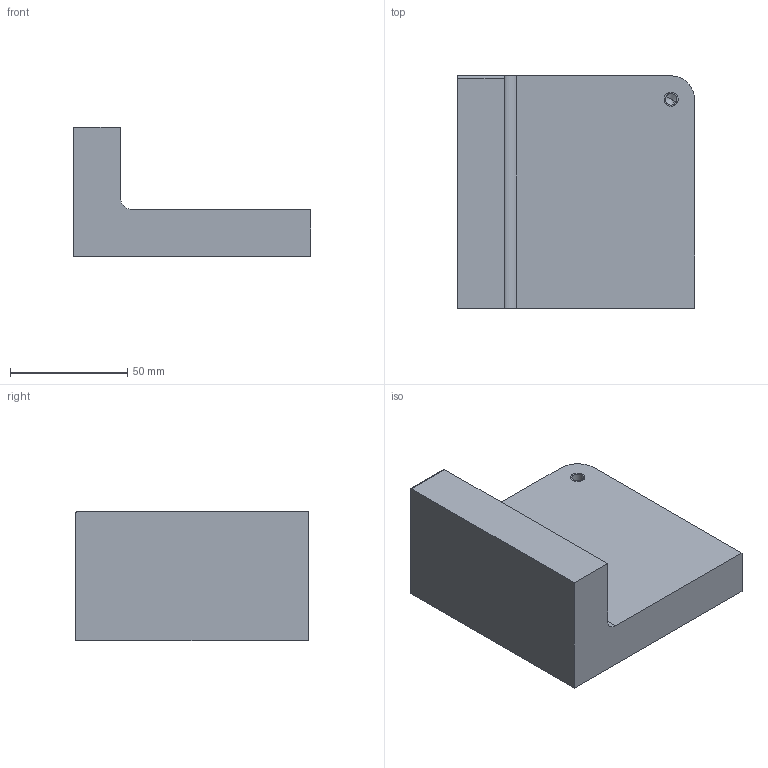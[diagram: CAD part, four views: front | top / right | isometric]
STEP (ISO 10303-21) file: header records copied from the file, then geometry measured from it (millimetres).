
FILE_DESCRIPTION(('CATIA V5 STEP Exchange'),'2;1');
FILE_NAME('C:\_Andres\UNIVERSIDAD\IQS\ASIGNATURAS\DAO\EXF\EXF-16172c\2inicio\Altirriba_Cusco_Ej01_v1.stp','2017-03-05T15:11:03+00:00',('none'),('none'),'CATIA Version 5-6 Release 2014 SP1 HF18','CATIA V5 STEP AP203','none');
FILE_SCHEMA(('CONFIG_CONTROL_DESIGN'));
Length unit declared in the file: millimetre
Products named in the file (1): Altirriba_Cusco_Ej01_v1
Bounding box: 101 x 99 x 55 mm (x, y, z)
Volume: 269064.8 mm3; surface area: 36464.8 mm2
Topology: 1 solids, 2 shells, 17 faces, 43 edges, 27 vertices
Faces by surface type: plane 8, cylinder 7, cone 2
Entity records: 513 total; most frequent: CARTESIAN_POINT 83, ORIENTED_EDGE 78, DIRECTION 69, EDGE_CURVE 41, AXIS2_PLACEMENT_3D 29, VECTOR 27, LINE 27, VERTEX_POINT 27
